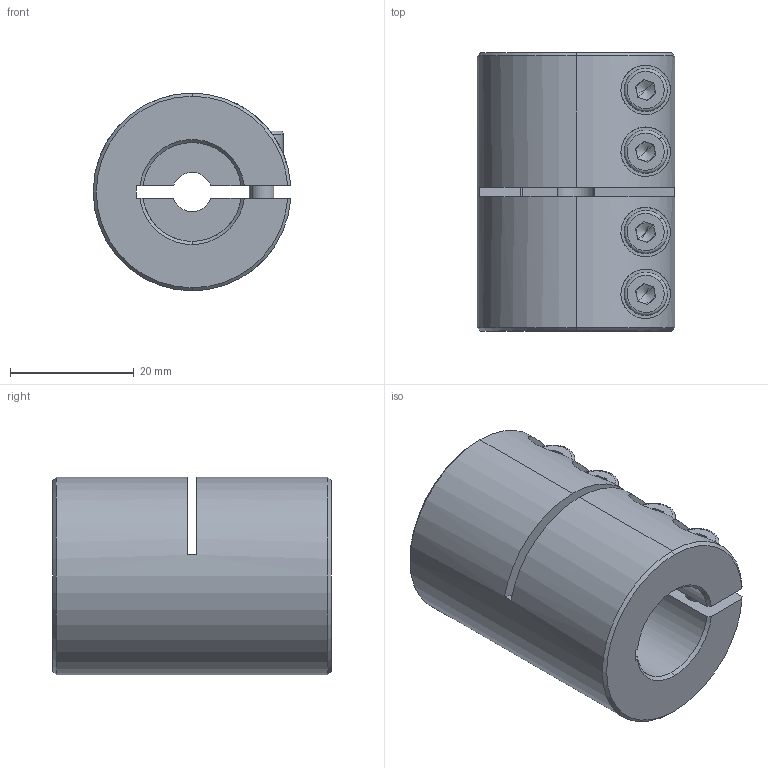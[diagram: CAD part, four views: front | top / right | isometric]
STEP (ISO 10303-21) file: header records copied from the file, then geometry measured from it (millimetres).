
FILE_DESCRIPTION (( 'STEP AP214' ), '1' );
FILE_NAME ('LL-B-D32L45-6.35-16½¨Ä£.STEP', '2022-07-21T06:59:38', ( '' ), ( '' ), 'SwSTEP 2.0', 'SolidWorks 2022', '' );
FILE_SCHEMA (( 'AUTOMOTIVE_DESIGN' ));
Length unit declared in the file: millimetre
Products named in the file (1): LL-B-D32L45-6.35-16膘耀
Bounding box: 31.97 x 45 x 32 mm (x, y, z)
Volume: 28814.6 mm3; surface area: 10903 mm2
Topology: 1 solids, 1 shells, 193 faces, 492 edges, 309 vertices
Faces by surface type: plane 88, cylinder 77, cone 20, torus 8
Entity records: 6357 total; most frequent: CARTESIAN_POINT 1583, DIRECTION 1037, ORIENTED_EDGE 968, EDGE_CURVE 484, AXIS2_PLACEMENT_3D 403, VERTEX_POINT 309, LINE 231, VECTOR 231
